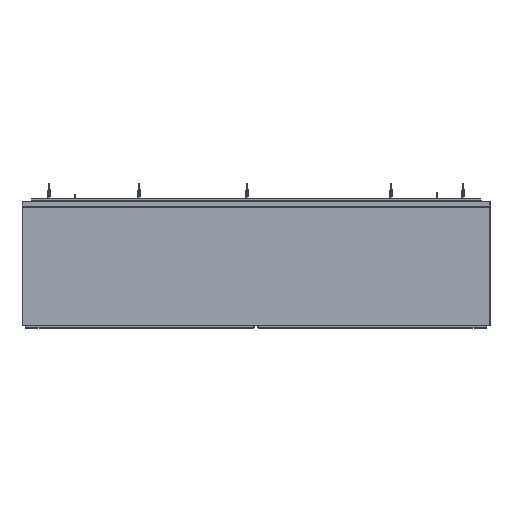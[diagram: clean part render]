
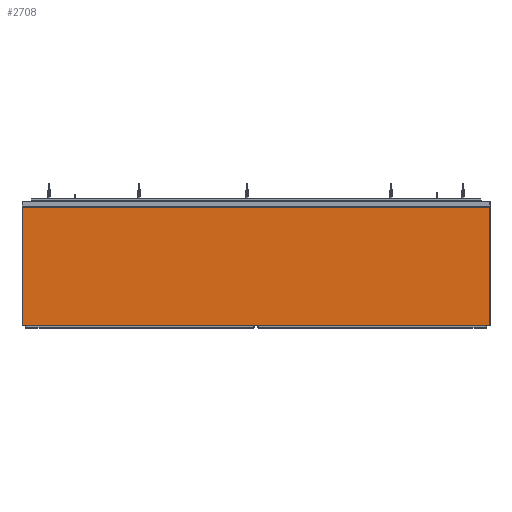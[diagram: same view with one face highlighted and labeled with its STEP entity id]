
A CAD part, top view. The second image highlights one B-rep face of the part: STEP entity #2708.
In plain terms, the highlighted planar face has unit normal (0, 0, 1).
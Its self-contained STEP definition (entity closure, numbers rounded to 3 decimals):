
#2708=ADVANCED_FACE('',(#5140),#41634,.T.);
#5140=FACE_OUTER_BOUND('',#7701,.T.);
#7701=EDGE_LOOP('',(#20346,#20347,#20348,#20349));
#20346=ORIENTED_EDGE('',*,*,#27672,.F.);
#20347=ORIENTED_EDGE('',*,*,#27673,.F.);
#20348=ORIENTED_EDGE('',*,*,#27674,.F.);
#20349=ORIENTED_EDGE('',*,*,#27671,.F.);
#27671=EDGE_CURVE('',#39116,#39117,#34899,.T.);
#27672=EDGE_CURVE('',#39118,#39116,#34900,.T.);
#27673=EDGE_CURVE('',#39119,#39118,#34901,.T.);
#27674=EDGE_CURVE('',#39117,#39119,#34902,.T.);
#34899=B_SPLINE_CURVE_WITH_KNOTS('',1,(#161316,#161317),.UNSPECIFIED.,.F.,
 .F.,(2,2),(-328.,0.),.UNSPECIFIED.);
#34900=B_SPLINE_CURVE_WITH_KNOTS('',1,(#161318,#161319),.UNSPECIFIED.,.F.,
 .F.,(2,2),(-1298.,0.),.UNSPECIFIED.);
#34901=B_SPLINE_CURVE_WITH_KNOTS('',1,(#161320,#161321),.UNSPECIFIED.,.F.,
 .F.,(2,2),(-328.,0.),.UNSPECIFIED.);
#34902=B_SPLINE_CURVE_WITH_KNOTS('',1,(#161322,#161323),.UNSPECIFIED.,.F.,
 .F.,(2,2),(-1298.,0.),.UNSPECIFIED.);
#39116=VERTEX_POINT('',#161246);
#39117=VERTEX_POINT('',#161247);
#39118=VERTEX_POINT('',#161248);
#39119=VERTEX_POINT('',#161249);
#41634=PLANE('',#43573);
#43573=AXIS2_PLACEMENT_3D('',#161185,#45516,$);
#45516=DIRECTION('',(0.,0.,1.));
#161185=CARTESIAN_POINT('',(-775.184,-227.46,885.822));
#161246=CARTESIAN_POINT('',(652.616,133.34,885.822));
#161247=CARTESIAN_POINT('',(652.616,-194.66,885.822));
#161248=CARTESIAN_POINT('',(-645.384,133.34,885.822));
#161249=CARTESIAN_POINT('',(-645.384,-194.66,885.822));
#161316=CARTESIAN_POINT('',(652.616,133.34,885.822));
#161317=CARTESIAN_POINT('',(652.616,-194.66,885.822));
#161318=CARTESIAN_POINT('',(-645.384,133.34,885.822));
#161319=CARTESIAN_POINT('',(652.616,133.34,885.822));
#161320=CARTESIAN_POINT('',(-645.384,-194.66,885.822));
#161321=CARTESIAN_POINT('',(-645.384,133.34,885.822));
#161322=CARTESIAN_POINT('',(652.616,-194.66,885.822));
#161323=CARTESIAN_POINT('',(-645.384,-194.66,885.822));
